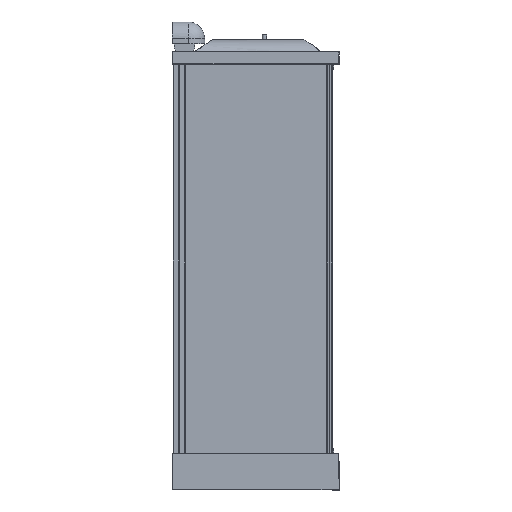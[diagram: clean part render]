
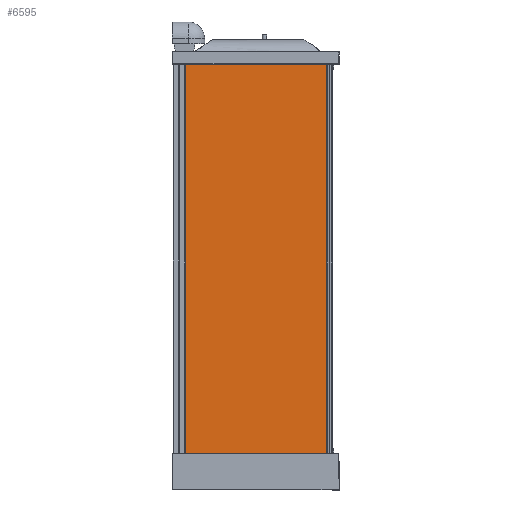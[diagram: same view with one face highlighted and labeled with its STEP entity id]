
A CAD part, left-side view. The second image highlights one B-rep face of the part: STEP entity #6595.
In plain terms, the highlighted planar face has unit normal (-1, 0, 0).
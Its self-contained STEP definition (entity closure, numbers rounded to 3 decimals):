
#6516=CARTESIAN_POINT('',(-964.701,-57.206,164.56));
#6517=VERTEX_POINT('',#6516);
#6524=CARTESIAN_POINT('',(-964.701,-57.206,2061.56));
#6525=VERTEX_POINT('',#6524);
#6526=CARTESIAN_POINT('',(-964.701,-57.206,2061.56));
#6527=DIRECTION('',(0.0,0.0,-1.0));
#6528=VECTOR('',#6527,1897.0);
#6529=LINE('',#6526,#6528);
#6530=EDGE_CURVE('',#6525,#6517,#6529,.T.);
#6555=CARTESIAN_POINT('',(-964.701,-750.206,164.56));
#6556=VERTEX_POINT('',#6555);
#6563=CARTESIAN_POINT('',(-964.701,-57.206,164.56));
#6564=DIRECTION('',(0.0,-1.0,0.0));
#6565=VECTOR('',#6564,693.);
#6566=LINE('',#6563,#6565);
#6567=EDGE_CURVE('',#6517,#6556,#6566,.T.);
#6572=CARTESIAN_POINT('',(-964.701,-27.556,69.71));
#6573=DIRECTION('',(-1.0,0.0,0.0));
#6574=DIRECTION('',(0.0,-1.0,0.0));
#6575=AXIS2_PLACEMENT_3D('',#6572,#6573,#6574);
#6576=PLANE('',#6575);
#6577=CARTESIAN_POINT('',(-964.701,-750.206,2061.56));
#6578=VERTEX_POINT('',#6577);
#6579=CARTESIAN_POINT('',(-964.701,-57.206,2061.56));
#6580=DIRECTION('',(0.0,-1.0,0.0));
#6581=VECTOR('',#6580,693.);
#6582=LINE('',#6579,#6581);
#6583=EDGE_CURVE('',#6525,#6578,#6582,.T.);
#6584=ORIENTED_EDGE('',*,*,#6583,.F.);
#6585=ORIENTED_EDGE('',*,*,#6530,.T.);
#6586=ORIENTED_EDGE('',*,*,#6567,.T.);
#6587=CARTESIAN_POINT('',(-964.701,-750.206,164.56));
#6588=DIRECTION('',(0.0,0.0,1.0));
#6589=VECTOR('',#6588,1897.0);
#6590=LINE('',#6587,#6589);
#6591=EDGE_CURVE('',#6556,#6578,#6590,.T.);
#6592=ORIENTED_EDGE('',*,*,#6591,.T.);
#6593=EDGE_LOOP('',(#6584,#6585,#6586,#6592));
#6594=FACE_OUTER_BOUND('',#6593,.T.);
#6595=ADVANCED_FACE('',(#6594),#6576,.T.);
